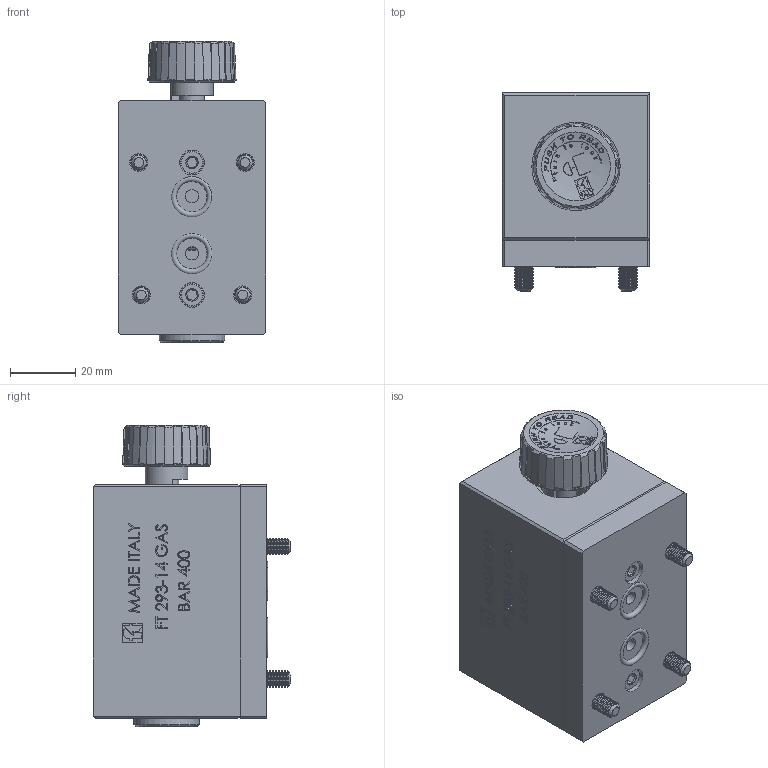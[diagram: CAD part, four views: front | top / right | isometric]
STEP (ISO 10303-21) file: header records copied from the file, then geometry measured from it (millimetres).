
FILE_DESCRIPTION (( 'STEP AP214' ), '1' );
FILE_NAME ('293-14.STEP', '2022-11-15T08:55:30', ( '' ), ( '' ), 'SwSTEP 2.0', 'SolidWorks 2022', '' );
FILE_SCHEMA (( 'AUTOMOTIVE_DESIGN' ));
Length unit declared in the file: millimetre
Products named in the file (1): 293-14
Bounding box: 45 x 60.5 x 92.05 mm (x, y, z)
Surface area: 28351.6 mm2 (no closed solid volume)
Topology: 0 solids, 74 shells, 564 faces, 2102 edges, 1555 vertices
Faces by surface type: plane 310, cone 128, bspline 62, sphere 39, cylinder 23, torus 2
Full cylindrical faces by diameter (mm): 4 x2, 5.5 x4, 7.5 x3, 8.3 x4, 9.5 x4, 13 x1, 15.15 x1, 20 x1
Entity records: 33690 total; most frequent: CARTESIAN_POINT 11085, ORIENTED_EDGE 3131, DIRECTION 3011, EDGE_CURVE 1930, VERTEX_POINT 1527, AXIS2_PLACEMENT_3D 1009, LINE 993, VECTOR 993
